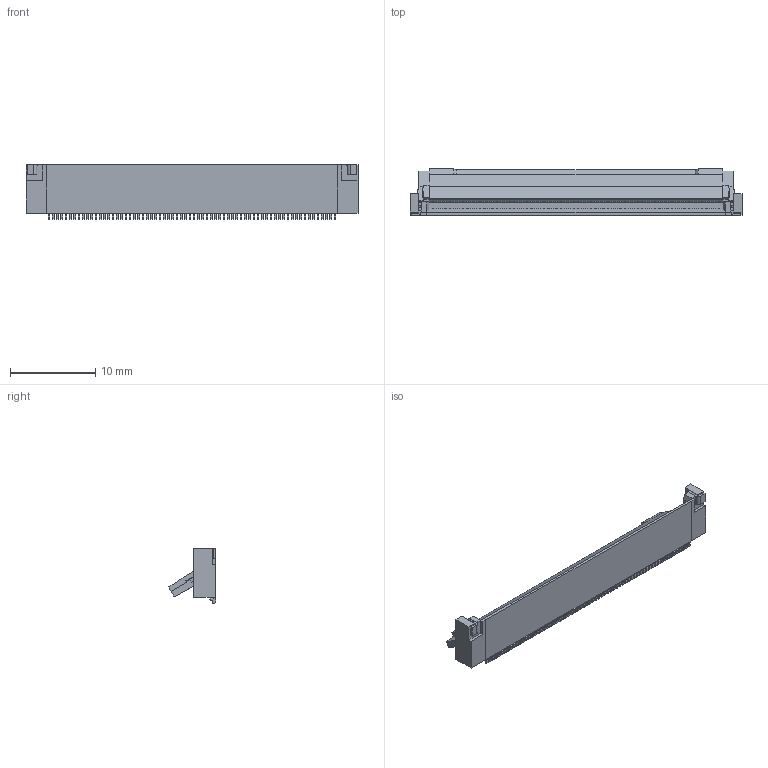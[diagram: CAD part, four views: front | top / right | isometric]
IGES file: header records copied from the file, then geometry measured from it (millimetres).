
Start section: SolidWorks IGES file using analytic representation for surfaces
Global section: file name: C:\3dworks\金子\MINIFLEX5-FF\STEP再作成\close 最終\IGES\20647-068E-01 ASS'Y ACT OPEN IGES R2 ALL.IGS; native system: SolidWorks 2014; preprocessor: SolidWorks 2014; author: ieng2-003; date: 161003.234829; units: millimetre
Bounding box: 38.9 x 5.51 x 6.4 mm (x, y, z)
Surface area: 1043.4 mm2 (no closed solid volume)
Topology: 0 solids, 0 shells, 2326 faces, 15378 edges, 15378 vertices
Faces by surface type: bspline 1363, revolution 963
